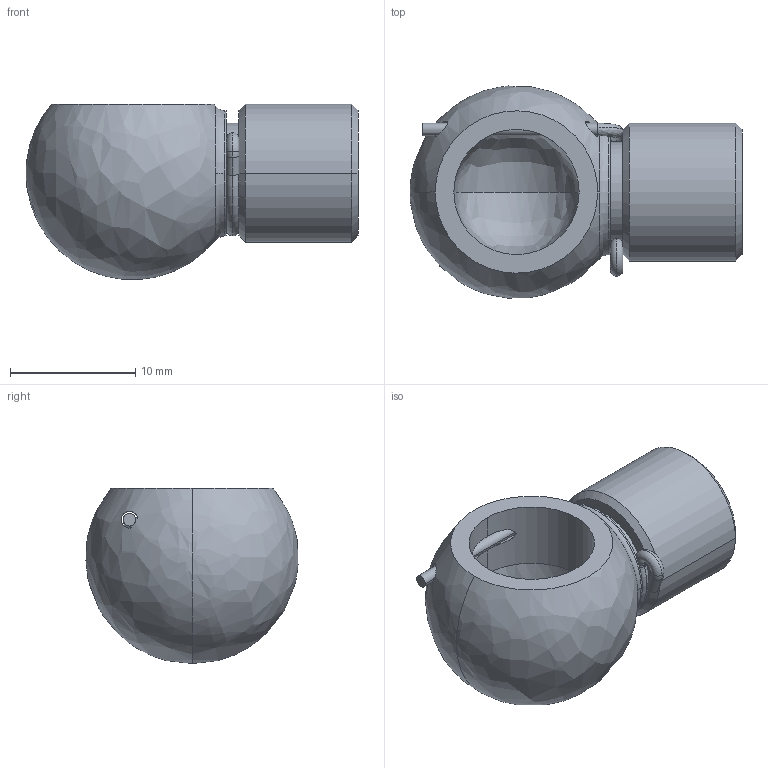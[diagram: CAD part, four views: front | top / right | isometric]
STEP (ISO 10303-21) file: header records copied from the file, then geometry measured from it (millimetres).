
FILE_DESCRIPTION (( 'STEP AP214' ), '1' );
FILE_NAME ('13.C10M6L18.STEP', '2018-01-08T13:11:58', ( '' ), ( '' ), 'SwSTEP 2.0', 'SolidWorks 2017', '' );
FILE_SCHEMA (( 'AUTOMOTIVE_DESIGN' ));
Length unit declared in the file: millimetre
Products named in the file (1): 13.C10M6L18
Bounding box: 26.5 x 16.92 x 13.98 mm (x, y, z)
Volume: 2422.3 mm3; surface area: 1944.5 mm2
Topology: 3 solids, 3 shells, 55 faces, 138 edges, 80 vertices
Faces by surface type: cylinder 18, plane 11, cone 10, bspline 8, torus 8
Entity records: 2055 total; most frequent: CARTESIAN_POINT 702, DIRECTION 297, ORIENTED_EDGE 260, AXIS2_PLACEMENT_3D 133, EDGE_CURVE 130, CIRCLE 85, VERTEX_POINT 80, EDGE_LOOP 62
